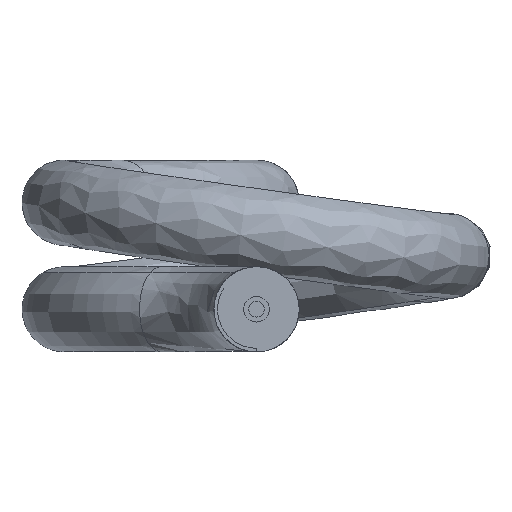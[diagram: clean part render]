
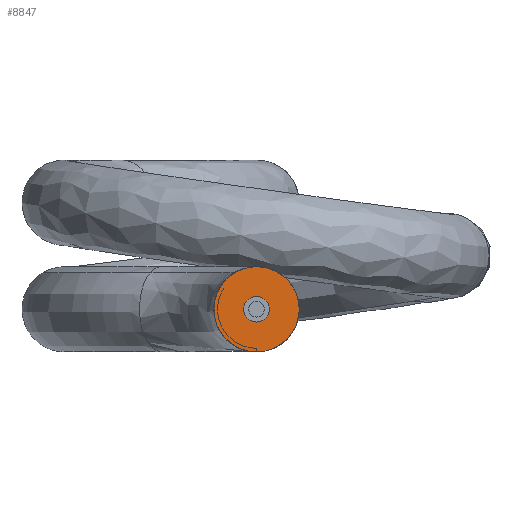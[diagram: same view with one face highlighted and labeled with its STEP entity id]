
A CAD part, left-side view. The second image highlights one B-rep face of the part: STEP entity #8847.
In plain terms, the highlighted planar face has unit normal (-1, 0, 0).
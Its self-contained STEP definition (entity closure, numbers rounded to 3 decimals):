
#134 = CIRCLE ( 'NONE', #3631, 3. ) ;
#731 = EDGE_LOOP ( 'NONE', ( #7265, #5288 ) ) ;
#921 = EDGE_CURVE ( 'NONE', #9549, #2399, #5329, .T. ) ;
#968 = CIRCLE ( 'NONE', #6837, 3. ) ;
#1069 = EDGE_CURVE ( 'NONE', #2399, #9549, #5999, .T. ) ;
#1176 = CARTESIAN_POINT ( 'NONE',  ( -82.5, 0., 10. ) ) ;
#1626 = AXIS2_PLACEMENT_3D ( 'NONE', #1880, #5087, #7609 ) ;
#1880 = CARTESIAN_POINT ( 'NONE',  ( -82.5, 0., 0. ) ) ;
#2124 = DIRECTION ( 'NONE',  ( -1., 0., 0. ) ) ;
#2133 = AXIS2_PLACEMENT_3D ( 'NONE', #3791, #8487, #7859 ) ;
#2319 = DIRECTION ( 'NONE',  ( 0., -1., 0. ) ) ;
#2399 = VERTEX_POINT ( 'NONE', #6688 ) ;
#2750 = DIRECTION ( 'NONE',  ( 0., -1., 0. ) ) ;
#2893 = CARTESIAN_POINT ( 'NONE',  ( -82.5, -3., 0. ) ) ;
#2923 = ORIENTED_EDGE ( 'NONE', *, *, #10067, .F. ) ;
#3028 = VERTEX_POINT ( 'NONE', #6283 ) ;
#3208 = DIRECTION ( 'NONE',  ( -1., 0., 0. ) ) ;
#3631 = AXIS2_PLACEMENT_3D ( 'NONE', #9133, #5238, #2750 ) ;
#3791 = CARTESIAN_POINT ( 'NONE',  ( -82.5, 0., 0. ) ) ;
#3955 = ORIENTED_EDGE ( 'NONE', *, *, #9812, .F. ) ;
#4169 = VERTEX_POINT ( 'NONE', #2893 ) ;
#4395 = FACE_OUTER_BOUND ( 'NONE', #731, .T. ) ;
#5087 = DIRECTION ( 'NONE',  ( -1., 0., 0. ) ) ;
#5238 = DIRECTION ( 'NONE',  ( -1., 0., 0. ) ) ;
#5288 = ORIENTED_EDGE ( 'NONE', *, *, #921, .T. ) ;
#5329 = CIRCLE ( 'NONE', #9024, 10. ) ;
#5877 = PLANE ( 'NONE',  #1626 ) ;
#5999 = CIRCLE ( 'NONE', #2133, 10. ) ;
#6283 = CARTESIAN_POINT ( 'NONE',  ( -82.5, 3., 0. ) ) ;
#6688 = CARTESIAN_POINT ( 'NONE',  ( -82.5, 0., -10. ) ) ;
#6837 = AXIS2_PLACEMENT_3D ( 'NONE', #9533, #3208, #2319 ) ;
#7265 = ORIENTED_EDGE ( 'NONE', *, *, #1069, .T. ) ;
#7609 = DIRECTION ( 'NONE',  ( 0., 0.525, 0.851 ) ) ;
#7651 = DIRECTION ( 'NONE',  ( 0., 0.525, 0.851 ) ) ;
#7859 = DIRECTION ( 'NONE',  ( 0., 0.525, 0.851 ) ) ;
#7931 = EDGE_LOOP ( 'NONE', ( #2923, #3955 ) ) ;
#8397 = FACE_BOUND ( 'NONE', #7931, .T. ) ;
#8487 = DIRECTION ( 'NONE',  ( -1., 0., 0. ) ) ;
#8847 = ADVANCED_FACE ( 'NONE', ( #8397, #4395 ), #5877, .T. ) ;
#9024 = AXIS2_PLACEMENT_3D ( 'NONE', #10228, #2124, #7651 ) ;
#9133 = CARTESIAN_POINT ( 'NONE',  ( -82.5, 0., 0. ) ) ;
#9533 = CARTESIAN_POINT ( 'NONE',  ( -82.5, 0., 0. ) ) ;
#9549 = VERTEX_POINT ( 'NONE', #1176 ) ;
#9812 = EDGE_CURVE ( 'NONE', #4169, #3028, #134, .T. ) ;
#10067 = EDGE_CURVE ( 'NONE', #3028, #4169, #968, .T. ) ;
#10228 = CARTESIAN_POINT ( 'NONE',  ( -82.5, 0., 0. ) ) ;
